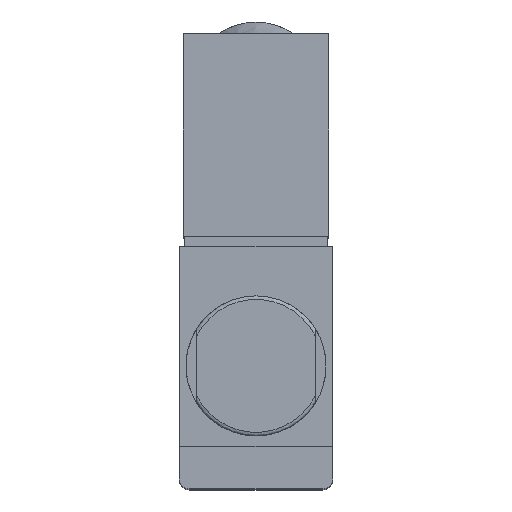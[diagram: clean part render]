
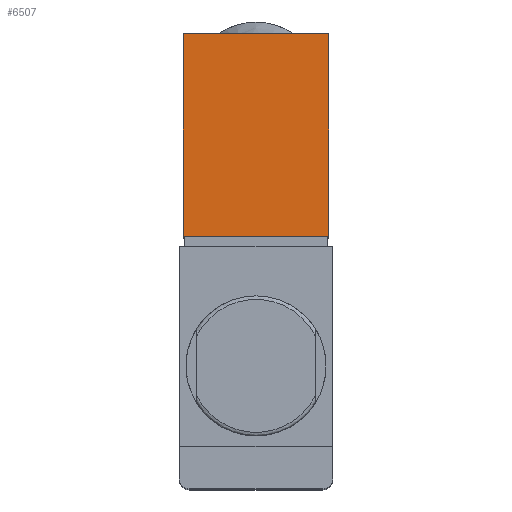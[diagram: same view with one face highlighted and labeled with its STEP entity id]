
A CAD part, top view. The second image highlights one B-rep face of the part: STEP entity #6507.
In plain terms, the highlighted planar face has unit normal (0, 0, 1).
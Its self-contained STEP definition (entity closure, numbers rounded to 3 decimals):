
#444=FACE_OUTER_BOUND('',#815,.T.);
#815=EDGE_LOOP('',(#5345,#5346,#5347,#5348));
#1676=LINE('',#10443,#2367);
#1678=LINE('',#10447,#2369);
#1680=LINE('',#10451,#2371);
#1681=LINE('',#10452,#2372);
#2367=VECTOR('',#8591,1000.);
#2369=VECTOR('',#8595,1000.);
#2371=VECTOR('',#8599,1000.);
#2372=VECTOR('',#8600,1000.);
#2906=VERTEX_POINT('',#10440);
#2907=VERTEX_POINT('',#10442);
#2908=VERTEX_POINT('',#10446);
#2909=VERTEX_POINT('',#10450);
#3736=EDGE_CURVE('',#2907,#2906,#1676,.T.);
#3738=EDGE_CURVE('',#2908,#2907,#1678,.T.);
#3740=EDGE_CURVE('',#2909,#2906,#1680,.T.);
#3741=EDGE_CURVE('',#2908,#2909,#1681,.T.);
#5345=ORIENTED_EDGE('',*,*,#3736,.T.);
#5346=ORIENTED_EDGE('',*,*,#3740,.F.);
#5347=ORIENTED_EDGE('',*,*,#3741,.F.);
#5348=ORIENTED_EDGE('',*,*,#3738,.T.);
#5821=PLANE('',#7012);
#6507=ADVANCED_FACE('',(#444),#5821,.F.);
#7012=AXIS2_PLACEMENT_3D('',#10449,#8597,#8598);
#8591=DIRECTION('',(1.,0.,0.));
#8595=DIRECTION('',(0.,-1.,0.));
#8597=DIRECTION('center_axis',(0.,0.,-1.));
#8598=DIRECTION('ref_axis',(-1.,0.,0.));
#8599=DIRECTION('',(0.,-1.,0.));
#8600=DIRECTION('',(1.,0.,0.));
#10440=CARTESIAN_POINT('',(10.4,36.,164.2));
#10442=CARTESIAN_POINT('',(-10.4,36.,164.2));
#10443=CARTESIAN_POINT('',(-10.4,36.,164.2));
#10446=CARTESIAN_POINT('',(-10.4,65.,164.2));
#10447=CARTESIAN_POINT('',(-10.4,65.,164.2));
#10449=CARTESIAN_POINT('Origin',(-10.4,65.,164.2));
#10450=CARTESIAN_POINT('',(10.4,65.,164.2));
#10451=CARTESIAN_POINT('',(10.4,65.,164.2));
#10452=CARTESIAN_POINT('',(-10.4,65.,164.2));
